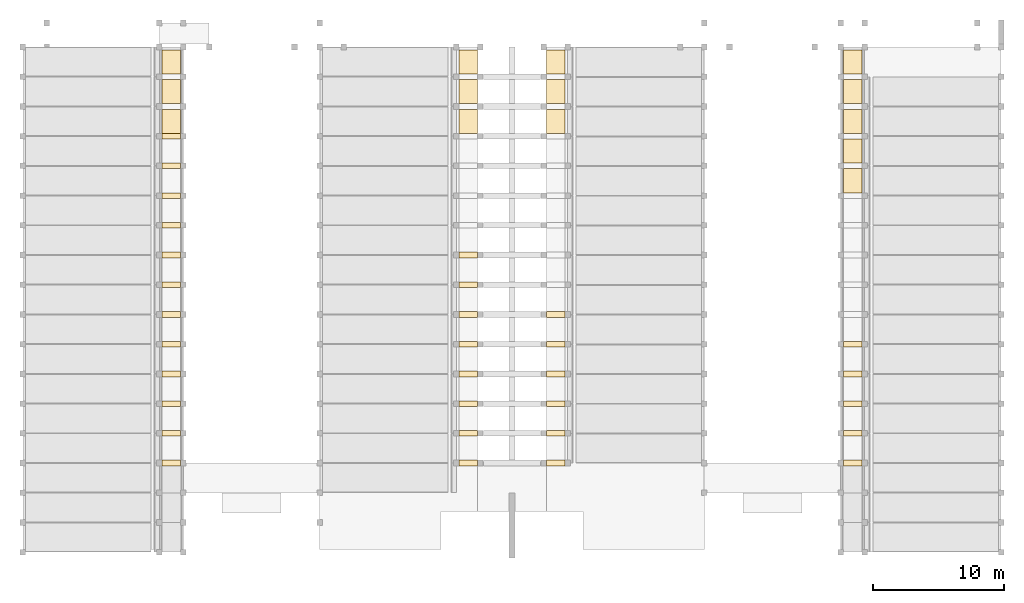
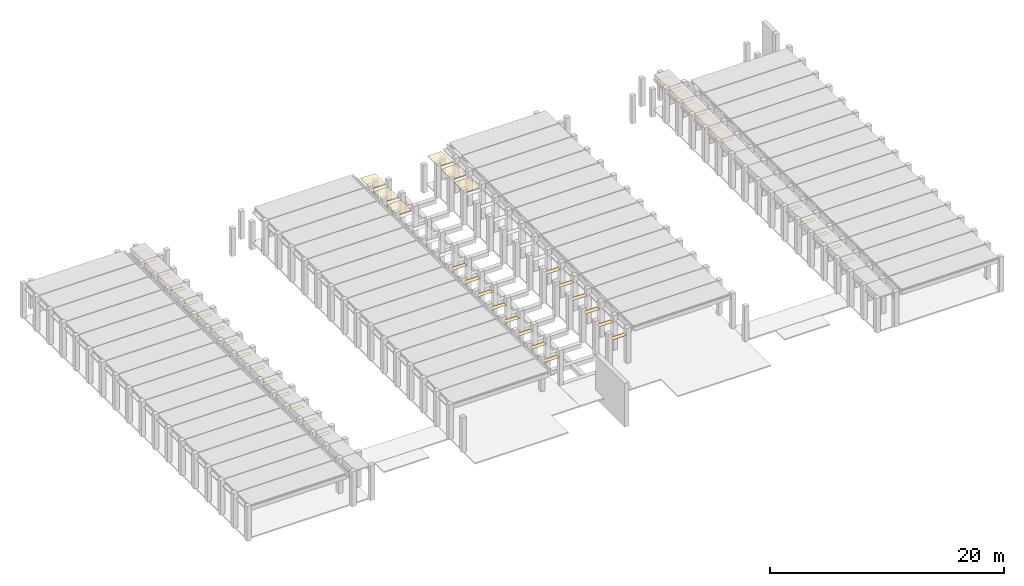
# One storey, part 17 of 18: 45 coverings.
"""IFC2X3 building model written with IfcOpenShell, lengths in millimetres."""

from ifc_helpers import new_model, entity, si_unit, converted_unit, derived_unit, direction, frame, frame_2d, origin, place, context, subcontext, project, spatial, rectangle, extrude, face_set, surface_model, material, layer, layer_set, layer_usage, type_object, element, save


model = new_model("IFC2X3")

# Units and contexts
model_context = context("Model", 3, precision=0.01, world=origin(), true_north=direction((6.12303176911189e-17, 1.0)))
body_context = subcontext(model_context, "Body", "Model", "MODEL_VIEW")
ifc_project = project(units=[si_unit("LENGTHUNIT", "METRE", prefix="MILLI"), si_unit("AREAUNIT", "SQUARE_METRE"), si_unit("VOLUMEUNIT", "CUBIC_METRE"), converted_unit("PLANEANGLEUNIT", "DEGREE", entity("IfcRatioMeasure", 0.0174532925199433), si_unit("PLANEANGLEUNIT", "RADIAN"), dimensions=[0, 0, 0, 0, 0, 0, 0]), si_unit("MASSUNIT", "GRAM", prefix="KILO"), derived_unit("MASSDENSITYUNIT", [(si_unit("MASSUNIT", "GRAM", prefix="KILO"), 1), (si_unit("LENGTHUNIT", "METRE"), -3)]), derived_unit("MOMENTOFINERTIAUNIT", [(si_unit("LENGTHUNIT", "METRE"), 4)]), si_unit("TIMEUNIT", "SECOND"), si_unit("FREQUENCYUNIT", "HERTZ"), si_unit("THERMODYNAMICTEMPERATUREUNIT", "DEGREE_CELSIUS"), derived_unit("THERMALTRANSMITTANCEUNIT", [(si_unit("MASSUNIT", "GRAM", prefix="KILO"), 1), (si_unit("THERMODYNAMICTEMPERATUREUNIT", "KELVIN"), -1), (si_unit("TIMEUNIT", "SECOND"), -3)]), derived_unit("VOLUMETRICFLOWRATEUNIT", [(si_unit("LENGTHUNIT", "METRE"), 3), (si_unit("TIMEUNIT", "SECOND"), -1)]), si_unit("ELECTRICCURRENTUNIT", "AMPERE"), si_unit("ELECTRICVOLTAGEUNIT", "VOLT"), si_unit("POWERUNIT", "WATT"), si_unit("FORCEUNIT", "NEWTON", prefix="KILO"), si_unit("ILLUMINANCEUNIT", "LUX"), si_unit("LUMINOUSFLUXUNIT", "LUMEN"), si_unit("LUMINOUSINTENSITYUNIT", "CANDELA"), derived_unit("USERDEFINED", [(si_unit("MASSUNIT", "GRAM", prefix="KILO"), -1), (si_unit("LENGTHUNIT", "METRE"), -2), (si_unit("TIMEUNIT", "SECOND"), 3), (si_unit("LUMINOUSFLUXUNIT", "LUMEN"), 1)]), derived_unit("LINEARVELOCITYUNIT", [(si_unit("LENGTHUNIT", "METRE"), 1), (si_unit("TIMEUNIT", "SECOND"), -1)]), si_unit("PRESSUREUNIT", "PASCAL"), derived_unit("USERDEFINED", [(si_unit("LENGTHUNIT", "METRE"), -2), (si_unit("MASSUNIT", "GRAM", prefix="KILO"), 1), (si_unit("TIMEUNIT", "SECOND"), -2)]), derived_unit("LINEARFORCEUNIT", [(si_unit("MASSUNIT", "GRAM", prefix="KILO"), 1), (si_unit("LENGTHUNIT", "METRE"), 1), (si_unit("TIMEUNIT", "SECOND"), -2), (si_unit("LENGTHUNIT", "METRE"), -1)]), derived_unit("PLANARFORCEUNIT", [(si_unit("MASSUNIT", "GRAM", prefix="KILO"), 1), (si_unit("LENGTHUNIT", "METRE"), 1), (si_unit("TIMEUNIT", "SECOND"), -2), (si_unit("LENGTHUNIT", "METRE"), -2)])], contexts=[model_context])

# Site, building, storey
site_placement = place(None, frame((10627.5135316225, 21939.0796949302, 0.0)))
site = spatial("IfcSite", under=ifc_project, at=site_placement, Name="Default", CompositionType="ELEMENT")
building_placement = place(site_placement, origin())
building = spatial("IfcBuilding", under=site, at=building_placement, CompositionType="ELEMENT")
storey_placement = place(building_placement, frame((0.0, 0.0, 3660.0)))
storey = spatial("IfcBuildingStorey", under=building, at=storey_placement, Name="R+1", CompositionType="ELEMENT", Elevation=3660.0)

# Coverings
ifc_material_1 = material(Name="Metal Stud Layer")
ifc_layer_1 = layer(ifc_material_1, 45.0)
ifc_material_2 = material(Name="PVC, Flexible")
ifc_layer_2 = layer(ifc_material_2, 12.0)
ifc_layer_set = layer_set([ifc_layer_1, ifc_layer_2], Name="Compound Ceiling:Plain")
ifc_layer_usage_1 = layer_usage(ifc_layer_set, "AXIS3", "POSITIVE", 0.0)
covering_type_1 = type_object("IfcCoveringType", Name="Compound Ceiling:Plain", PredefinedType="CEILING")
covering_1_placement = place(storey_placement, origin())
element("IfcCovering", 1, at=covering_1_placement, inside=storey, type_object=covering_type_1, material=ifc_layer_usage_1, Name="Compound Ceiling:Plain", ObjectType="Compound Ceiling:Plain", PredefinedType="CEILING", context=body_context, shape_type="SweptSolid", body=[
    extrude(rectangle(XDim=1828.30330426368, YDim=1400.00000000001, at=frame_2d((-1.08002495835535e-12, 0.0), x_axis=(1.0, 0.0))), frame((23257.4864683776, 15351.7686529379, 2959.0), z_axis=(0.0, 0.0, 1.0), x_axis=(0.0, -1.0, 0.0)), (0.0, 0.0, 1.0), 57.0),
])
ifc_layer_usage_2 = layer_usage(ifc_layer_set, "AXIS3", "POSITIVE", 0.0)
covering_type_2 = type_object("IfcCoveringType", Name="Compound Ceiling:Plain", PredefinedType="CEILING")
covering_2_placement = place(storey_placement, origin())
element("IfcCovering", 2, at=covering_2_placement, inside=storey, type_object=covering_type_2, material=ifc_layer_usage_2, Name="Compound Ceiling:Plain", ObjectType="Compound Ceiling:Plain", PredefinedType="CEILING", context=body_context, shape_type="SweptSolid", body=[
    extrude(rectangle(XDim=1828.30330426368, YDim=1400.00000000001, at=frame_2d((-1.08002495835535e-12, 0.0), x_axis=(1.0, 0.0))), frame((23257.4864683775, 13091.7686529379, 2959.0), z_axis=(0.0, 0.0, 1.0), x_axis=(0.0, -1.0, 0.0)), (0.0, 0.0, 1.0), 57.0),
])
ifc_layer_usage_3 = layer_usage(ifc_layer_set, "AXIS3", "POSITIVE", 0.0)
covering_type_3 = type_object("IfcCoveringType", Name="Compound Ceiling:Plain", PredefinedType="CEILING")
covering_3_placement = place(storey_placement, origin())
element("IfcCovering", 3, at=covering_3_placement, inside=storey, type_object=covering_type_3, material=ifc_layer_usage_3, Name="Compound Ceiling:Plain", ObjectType="Compound Ceiling:Plain", PredefinedType="CEILING", context=body_context, shape_type="SweptSolid", body=[
    extrude(rectangle(XDim=1828.30330426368, YDim=1400.00000000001, at=frame_2d((-1.08002495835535e-12, 0.0), x_axis=(1.0, 0.0))), frame((23257.4864683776, 10831.7686529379, 2959.0), z_axis=(0.0, 0.0, 1.0), x_axis=(0.0, -1.0, 0.0)), (0.0, 0.0, 1.0), 57.0),
])
ifc_layer_usage_4 = layer_usage(ifc_layer_set, "AXIS3", "POSITIVE", 0.0)
covering_type_4 = type_object("IfcCoveringType", Name="Compound Ceiling:Plain", PredefinedType="CEILING")
covering_4_placement = place(storey_placement, origin())
element("IfcCovering", 4, at=covering_4_placement, inside=storey, type_object=covering_type_4, material=ifc_layer_usage_4, Name="Compound Ceiling:Plain", ObjectType="Compound Ceiling:Plain", PredefinedType="CEILING", context=body_context, shape_type="SweptSolid", body=[
    extrude(rectangle(XDim=1828.30330426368, YDim=1400.00000000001, at=frame_2d((-1.08002495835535e-12, 0.0), x_axis=(1.0, 0.0))), frame((667.486468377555, 15351.768652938, 2959.0), z_axis=(0.0, 0.0, 1.0), x_axis=(0.0, -1.0, 0.0)), (0.0, 0.0, 1.0), 57.0),
])
ifc_layer_usage_5 = layer_usage(ifc_layer_set, "AXIS3", "POSITIVE", 0.0)
covering_type_5 = type_object("IfcCoveringType", Name="Compound Ceiling:Plain", PredefinedType="CEILING")
covering_5_placement = place(storey_placement, origin())
element("IfcCovering", 5, at=covering_5_placement, inside=storey, type_object=covering_type_5, material=ifc_layer_usage_5, Name="Compound Ceiling:Plain", ObjectType="Compound Ceiling:Plain", PredefinedType="CEILING", context=body_context, shape_type="SweptSolid", body=[
    extrude(rectangle(XDim=1828.30330426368, YDim=1400.00000000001, at=frame_2d((-1.08002495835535e-12, 0.0), x_axis=(1.0, 0.0))), frame((667.486468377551, 13091.768652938, 2959.0), z_axis=(0.0, 0.0, 1.0), x_axis=(0.0, -1.0, 0.0)), (0.0, 0.0, 1.0), 57.0),
])
ifc_layer_usage_6 = layer_usage(ifc_layer_set, "AXIS3", "POSITIVE", 0.0)
covering_type_6 = type_object("IfcCoveringType", Name="Compound Ceiling:Plain", PredefinedType="CEILING")
covering_6_placement = place(storey_placement, origin())
element("IfcCovering", 6, at=covering_6_placement, inside=storey, type_object=covering_type_6, material=ifc_layer_usage_6, Name="Compound Ceiling:Plain", ObjectType="Compound Ceiling:Plain", PredefinedType="CEILING", context=body_context, shape_type="SweptSolid", body=[
    extrude(rectangle(XDim=1828.30330426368, YDim=1400.00000000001, at=frame_2d((-1.08002495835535e-12, 0.0), x_axis=(1.0, 0.0))), frame((667.486468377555, 10831.768652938, 2959.0), z_axis=(0.0, 0.0, 1.0), x_axis=(0.0, -1.0, 0.0)), (0.0, 0.0, 1.0), 57.0),
])
ifc_layer_usage_7 = layer_usage(ifc_layer_set, "AXIS3", "POSITIVE", 0.0)
covering_type_7 = type_object("IfcCoveringType", Name="Compound Ceiling:Plain", PredefinedType="CEILING")
covering_7_placement = place(storey_placement, origin())
element("IfcCovering", 7, at=covering_7_placement, inside=storey, type_object=covering_type_7, material=ifc_layer_usage_7, Name="Compound Ceiling:Plain", ObjectType="Compound Ceiling:Plain", PredefinedType="CEILING", context=body_context, shape_type="SweptSolid", body=[
    extrude(rectangle(XDim=1400.00000000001, YDim=1828.30330426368, at=frame_2d((0.0, -1.08002495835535e-12), x_axis=(1.0, 0.0))), frame((29897.4864683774, 15351.7686529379, 2959.0), z_axis=(0.0, 0.0, 1.0), x_axis=(-1.0, 0.0, 0.0)), (0.0, 0.0, 1.0), 57.0),
])
ifc_layer_usage_8 = layer_usage(ifc_layer_set, "AXIS3", "POSITIVE", 0.0)
covering_type_8 = type_object("IfcCoveringType", Name="Compound Ceiling:Plain", PredefinedType="CEILING")
covering_8_placement = place(storey_placement, origin())
element("IfcCovering", 8, at=covering_8_placement, inside=storey, type_object=covering_type_8, material=ifc_layer_usage_8, Name="Compound Ceiling:Plain", ObjectType="Compound Ceiling:Plain", PredefinedType="CEILING", context=body_context, shape_type="SweptSolid", body=[
    extrude(rectangle(XDim=1400.00000000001, YDim=1828.30330426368, at=frame_2d((0.0, 1.08002495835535e-12), x_axis=(1.0, 0.0))), frame((29897.4864683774, 13091.7686529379, 2959.0), z_axis=(0.0, 0.0, 1.0), x_axis=(-1.0, 0.0, 0.0)), (0.0, 0.0, 1.0), 57.0),
])
ifc_layer_usage_9 = layer_usage(ifc_layer_set, "AXIS3", "POSITIVE", 0.0)
covering_type_9 = type_object("IfcCoveringType", Name="Compound Ceiling:Plain", PredefinedType="CEILING")
covering_9_placement = place(storey_placement, origin())
element("IfcCovering", 9, at=covering_9_placement, inside=storey, type_object=covering_type_9, material=ifc_layer_usage_9, Name="Compound Ceiling:Plain", ObjectType="Compound Ceiling:Plain", PredefinedType="CEILING", context=body_context, shape_type="SweptSolid", body=[
    extrude(rectangle(XDim=1400.00000000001, YDim=1828.30330426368, at=frame_2d((0.0, -1.08002495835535e-12), x_axis=(1.0, 0.0))), frame((29897.4864683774, 10831.7686529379, 2959.0), z_axis=(0.0, 0.0, 1.0), x_axis=(-1.0, 0.0, 0.0)), (0.0, 0.0, 1.0), 57.0),
])
ifc_layer_usage_10 = layer_usage(ifc_layer_set, "AXIS3", "POSITIVE", 0.0)
covering_type_10 = type_object("IfcCoveringType", Name="Compound Ceiling:Plain", PredefinedType="CEILING")
covering_10_placement = place(storey_placement, origin())
element("IfcCovering", 10, at=covering_10_placement, inside=storey, type_object=covering_type_10, material=ifc_layer_usage_10, Name="Compound Ceiling:Plain", ObjectType="Compound Ceiling:Plain", PredefinedType="CEILING", context=body_context, shape_type="SweptSolid", body=[
    extrude(rectangle(XDim=1400.00000000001, YDim=1828.30330426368, at=frame_2d((0.0, 1.08002495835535e-12), x_axis=(1.0, 0.0))), frame((52487.4864683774, 15351.768652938, 2959.0), z_axis=(0.0, 0.0, 1.0), x_axis=(-1.0, 0.0, 0.0)), (0.0, 0.0, 1.0), 57.0),
])
ifc_layer_usage_11 = layer_usage(ifc_layer_set, "AXIS3", "POSITIVE", 0.0)
covering_type_11 = type_object("IfcCoveringType", Name="Compound Ceiling:Plain", PredefinedType="CEILING")
covering_11_placement = place(storey_placement, origin())
element("IfcCovering", 11, at=covering_11_placement, inside=storey, type_object=covering_type_11, material=ifc_layer_usage_11, Name="Compound Ceiling:Plain", ObjectType="Compound Ceiling:Plain", PredefinedType="CEILING", context=body_context, shape_type="SweptSolid", body=[
    extrude(rectangle(XDim=1400.00000000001, YDim=1828.30330426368, at=frame_2d((0.0, -1.08002495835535e-12), x_axis=(1.0, 0.0))), frame((52487.4864683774, 13091.768652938, 2959.0), z_axis=(0.0, 0.0, 1.0), x_axis=(-1.0, 0.0, 0.0)), (0.0, 0.0, 1.0), 57.0),
])
ifc_layer_usage_12 = layer_usage(ifc_layer_set, "AXIS3", "POSITIVE", 0.0)
covering_type_12 = type_object("IfcCoveringType", Name="Compound Ceiling:Plain", PredefinedType="CEILING")
covering_12_placement = place(storey_placement, origin())
element("IfcCovering", 12, at=covering_12_placement, inside=storey, type_object=covering_type_12, material=ifc_layer_usage_12, Name="Compound Ceiling:Plain", ObjectType="Compound Ceiling:Plain", PredefinedType="CEILING", context=body_context, shape_type="SweptSolid", body=[
    extrude(rectangle(XDim=1400.00000000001, YDim=1828.30330426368, at=frame_2d((0.0, 1.08002495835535e-12), x_axis=(1.0, 0.0))), frame((52487.4864683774, 10831.768652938, 2959.0), z_axis=(0.0, 0.0, 1.0), x_axis=(-1.0, 0.0, 0.0)), (0.0, 0.0, 1.0), 57.0),
])
ifc_layer_usage_13 = layer_usage(ifc_layer_set, "AXIS3", "POSITIVE", 0.0)
covering_type_13 = type_object("IfcCoveringType", Name="Compound Ceiling:Plain", PredefinedType="CEILING")
covering_13_placement = place(storey_placement, origin())
element("IfcCovering", 13, at=covering_13_placement, inside=storey, type_object=covering_type_13, material=ifc_layer_usage_13, Name="Compound Ceiling:Plain", ObjectType="Compound Ceiling:Plain", PredefinedType="CEILING", context=body_context, shape_type="SweptSolid", body=[
    extrude(rectangle(XDim=1400.00000000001, YDim=1828.30330426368, at=frame_2d((0.0, -1.08002495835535e-12), x_axis=(1.0, 0.0))), frame((52487.4864683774, 8571.76865293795, 2959.0), z_axis=(0.0, 0.0, 1.0), x_axis=(-1.0, 0.0, 0.0)), (0.0, 0.0, 1.0), 57.0),
])
ifc_layer_usage_14 = layer_usage(ifc_layer_set, "AXIS3", "POSITIVE", 0.0)
covering_type_14 = type_object("IfcCoveringType", Name="Compound Ceiling:Plain", PredefinedType="CEILING")
covering_14_placement = place(storey_placement, origin())
element("IfcCovering", 14, at=covering_14_placement, inside=storey, type_object=covering_type_14, material=ifc_layer_usage_14, Name="Compound Ceiling:Plain", ObjectType="Compound Ceiling:Plain", PredefinedType="CEILING", context=body_context, shape_type="SweptSolid", body=[
    extrude(rectangle(XDim=1400.00000000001, YDim=1828.30330426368, at=frame_2d((0.0, 1.08002495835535e-12), x_axis=(1.0, 0.0))), frame((52487.4864683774, 6311.76865293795, 2959.0), z_axis=(0.0, 0.0, 1.0), x_axis=(-1.0, 0.0, 0.0)), (0.0, 0.0, 1.0), 57.0),
])
covering_type_15 = type_object("IfcCoveringType", Name="Basic Ceiling:Generic", PredefinedType="CEILING")
covering_15_placement = place(storey_placement, frame((22557.4864683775, 445.920305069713, 2959.0)))
element("IfcCovering", 15, at=covering_15_placement, inside=storey, type_object=covering_type_15, Name="Basic Ceiling:Generic", ObjectType="Basic Ceiling:Generic", PredefinedType="CEILING", context=body_context, shape_type="SurfaceModel", body=[
    surface_model("IfcFaceBasedSurfaceModel", [(0.0, 430.0, 0.0), (0.0, 0.0, 0.0), (1400.0, 0.0, 0.0), (1400.0, 430.0, 0.0)], [face_set([[[0, 1, 2, 3]]])]),
])
covering_type_16 = type_object("IfcCoveringType", Name="Basic Ceiling:Generic", PredefinedType="CEILING")
covering_16_placement = place(storey_placement, frame((22557.4864683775, -1814.07969493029, 2959.0)))
element("IfcCovering", 16, at=covering_16_placement, inside=storey, type_object=covering_type_16, Name="Basic Ceiling:Generic", ObjectType="Basic Ceiling:Generic", PredefinedType="CEILING", context=body_context, shape_type="SurfaceModel", body=[
    surface_model("IfcFaceBasedSurfaceModel", [(0.0, 430.0, 0.0), (0.0, 0.0, 0.0), (1400.0, 0.0, 0.0), (1400.0, 430.0, 0.0)], [face_set([[[0, 1, 2, 3]]])]),
])
covering_type_17 = type_object("IfcCoveringType", Name="Basic Ceiling:Generic", PredefinedType="CEILING")
covering_17_placement = place(storey_placement, frame((22557.4864683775, -4074.07969493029, 2959.0)))
element("IfcCovering", 17, at=covering_17_placement, inside=storey, type_object=covering_type_17, Name="Basic Ceiling:Generic", ObjectType="Basic Ceiling:Generic", PredefinedType="CEILING", context=body_context, shape_type="SurfaceModel", body=[
    surface_model("IfcFaceBasedSurfaceModel", [(0.0, 430.0, 0.0), (0.0, 0.0, 0.0), (1400.0, 0.0, 0.0), (1400.0, 430.0, 0.0)], [face_set([[[0, 1, 2, 3]]])]),
])
covering_type_18 = type_object("IfcCoveringType", Name="Basic Ceiling:Generic", PredefinedType="CEILING")
covering_18_placement = place(storey_placement, frame((22557.4864683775, -6334.07969493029, 2959.0)))
element("IfcCovering", 18, at=covering_18_placement, inside=storey, type_object=covering_type_18, Name="Basic Ceiling:Generic", ObjectType="Basic Ceiling:Generic", PredefinedType="CEILING", context=body_context, shape_type="SurfaceModel", body=[
    surface_model("IfcFaceBasedSurfaceModel", [(0.0, 430.0, 0.0), (0.0, 0.0, 0.0), (1400.0, 0.0, 0.0), (1400.0, 430.0, 0.0)], [face_set([[[0, 1, 2, 3]]])]),
])
covering_type_19 = type_object("IfcCoveringType", Name="Basic Ceiling:Generic", PredefinedType="CEILING")
covering_19_placement = place(storey_placement, frame((22557.4864683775, -8594.07969493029, 2959.0)))
element("IfcCovering", 19, at=covering_19_placement, inside=storey, type_object=covering_type_19, Name="Basic Ceiling:Generic", ObjectType="Basic Ceiling:Generic", PredefinedType="CEILING", context=body_context, shape_type="SurfaceModel", body=[
    surface_model("IfcFaceBasedSurfaceModel", [(0.0, 430.0, 0.0), (0.0, 0.0, 0.0), (1400.0, 0.0, 0.0), (1400.0, 430.0, 0.0)], [face_set([[[0, 1, 2, 3]]])]),
])
covering_type_20 = type_object("IfcCoveringType", Name="Basic Ceiling:Generic", PredefinedType="CEILING")
covering_20_placement = place(storey_placement, frame((22557.4864683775, -10854.0796949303, 2959.0)))
element("IfcCovering", 20, at=covering_20_placement, inside=storey, type_object=covering_type_20, Name="Basic Ceiling:Generic", ObjectType="Basic Ceiling:Generic", PredefinedType="CEILING", context=body_context, shape_type="SurfaceModel", body=[
    surface_model("IfcFaceBasedSurfaceModel", [(0.0, 430.0, 0.0), (0.0, 0.0, 0.0), (1400.0, 0.0, 0.0), (1400.0, 430.0, 0.0)], [face_set([[[0, 1, 2, 3]]])]),
])
covering_type_21 = type_object("IfcCoveringType", Name="Basic Ceiling:Generic", PredefinedType="CEILING")
covering_21_placement = place(storey_placement, frame((22557.4864683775, -13114.0796949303, 2959.0)))
element("IfcCovering", 21, at=covering_21_placement, inside=storey, type_object=covering_type_21, Name="Basic Ceiling:Generic", ObjectType="Basic Ceiling:Generic", PredefinedType="CEILING", context=body_context, shape_type="SurfaceModel", body=[
    surface_model("IfcFaceBasedSurfaceModel", [(0.0, 430.0, 0.0), (0.0, 0.0, 0.0), (1400.0, 0.0, 0.0), (1400.0, 430.0, 0.0)], [face_set([[[0, 1, 2, 3]]])]),
])
covering_type_22 = type_object("IfcCoveringType", Name="Basic Ceiling:Generic", PredefinedType="CEILING")
covering_22_placement = place(storey_placement, frame((22557.4864683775, -15374.0796949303, 2959.0)))
element("IfcCovering", 22, at=covering_22_placement, inside=storey, type_object=covering_type_22, Name="Basic Ceiling:Generic", ObjectType="Basic Ceiling:Generic", PredefinedType="CEILING", context=body_context, shape_type="SurfaceModel", body=[
    surface_model("IfcFaceBasedSurfaceModel", [(0.0, 430.0, 0.0), (0.0, 0.0, 0.0), (1400.0, 0.0, 0.0), (1400.0, 430.0, 0.0)], [face_set([[[0, 1, 2, 3]]])]),
])
covering_type_23 = type_object("IfcCoveringType", Name="Basic Ceiling:Generic", PredefinedType="CEILING")
covering_23_placement = place(storey_placement, frame((-32.5135316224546, 9485.92030506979, 2959.0)))
element("IfcCovering", 23, at=covering_23_placement, inside=storey, type_object=covering_type_23, Name="Basic Ceiling:Generic", ObjectType="Basic Ceiling:Generic", PredefinedType="CEILING", context=body_context, shape_type="SurfaceModel", body=[
    surface_model("IfcFaceBasedSurfaceModel", [(0.0, 430.0, 0.0), (0.0, 0.0, 0.0), (1400.0, 0.0, 0.0), (1400.0, 430.0, 0.0)], [face_set([[[0, 1, 2, 3]]])]),
])
covering_type_24 = type_object("IfcCoveringType", Name="Basic Ceiling:Generic", PredefinedType="CEILING")
covering_24_placement = place(storey_placement, frame((-32.5135316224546, 7225.92030506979, 2959.0)))
element("IfcCovering", 24, at=covering_24_placement, inside=storey, type_object=covering_type_24, Name="Basic Ceiling:Generic", ObjectType="Basic Ceiling:Generic", PredefinedType="CEILING", context=body_context, shape_type="SurfaceModel", body=[
    surface_model("IfcFaceBasedSurfaceModel", [(0.0, 430.0, 0.0), (0.0, 0.0, 0.0), (1400.0, 0.0, 0.0), (1400.0, 430.0, 0.0)], [face_set([[[0, 1, 2, 3]]])]),
])
covering_type_25 = type_object("IfcCoveringType", Name="Basic Ceiling:Generic", PredefinedType="CEILING")
covering_25_placement = place(storey_placement, frame((-32.5135316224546, 4965.92030506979, 2959.0)))
element("IfcCovering", 25, at=covering_25_placement, inside=storey, type_object=covering_type_25, Name="Basic Ceiling:Generic", ObjectType="Basic Ceiling:Generic", PredefinedType="CEILING", context=body_context, shape_type="SurfaceModel", body=[
    surface_model("IfcFaceBasedSurfaceModel", [(0.0, 430.0, 0.0), (0.0, 0.0, 0.0), (1400.0, 0.0, 0.0), (1400.0, 430.0, 0.0)], [face_set([[[0, 1, 2, 3]]])]),
])
covering_type_26 = type_object("IfcCoveringType", Name="Basic Ceiling:Generic", PredefinedType="CEILING")
covering_26_placement = place(storey_placement, frame((-32.5135316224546, 2705.92030506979, 2959.0)))
element("IfcCovering", 26, at=covering_26_placement, inside=storey, type_object=covering_type_26, Name="Basic Ceiling:Generic", ObjectType="Basic Ceiling:Generic", PredefinedType="CEILING", context=body_context, shape_type="SurfaceModel", body=[
    surface_model("IfcFaceBasedSurfaceModel", [(0.0, 430.0, 0.0), (0.0, 0.0, 0.0), (1400.0, 0.0, 0.0), (1400.0, 430.0, 0.0)], [face_set([[[0, 1, 2, 3]]])]),
])
covering_type_27 = type_object("IfcCoveringType", Name="Basic Ceiling:Generic", PredefinedType="CEILING")
covering_27_placement = place(storey_placement, frame((-32.5135316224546, 445.920305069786, 2959.0)))
element("IfcCovering", 27, at=covering_27_placement, inside=storey, type_object=covering_type_27, Name="Basic Ceiling:Generic", ObjectType="Basic Ceiling:Generic", PredefinedType="CEILING", context=body_context, shape_type="SurfaceModel", body=[
    surface_model("IfcFaceBasedSurfaceModel", [(0.0, 430.0, 0.0), (0.0, 0.0, 0.0), (1400.0, 0.0, 0.0), (1400.0, 430.0, 0.0)], [face_set([[[0, 1, 2, 3]]])]),
])
covering_type_28 = type_object("IfcCoveringType", Name="Basic Ceiling:Generic", PredefinedType="CEILING")
covering_28_placement = place(storey_placement, frame((-32.5135316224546, -1814.07969493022, 2959.0)))
element("IfcCovering", 28, at=covering_28_placement, inside=storey, type_object=covering_type_28, Name="Basic Ceiling:Generic", ObjectType="Basic Ceiling:Generic", PredefinedType="CEILING", context=body_context, shape_type="SurfaceModel", body=[
    surface_model("IfcFaceBasedSurfaceModel", [(0.0, 430.0, 0.0), (0.0, 0.0, 0.0), (1400.0, 0.0, 0.0), (1400.0, 430.0, 0.0)], [face_set([[[0, 1, 2, 3]]])]),
])
covering_type_29 = type_object("IfcCoveringType", Name="Basic Ceiling:Generic", PredefinedType="CEILING")
covering_29_placement = place(storey_placement, frame((-32.5135316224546, -4074.07969493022, 2959.0)))
element("IfcCovering", 29, at=covering_29_placement, inside=storey, type_object=covering_type_29, Name="Basic Ceiling:Generic", ObjectType="Basic Ceiling:Generic", PredefinedType="CEILING", context=body_context, shape_type="SurfaceModel", body=[
    surface_model("IfcFaceBasedSurfaceModel", [(0.0, 430.0, 0.0), (0.0, 0.0, 0.0), (1400.0, 0.0, 0.0), (1400.0, 430.0, 0.0)], [face_set([[[0, 1, 2, 3]]])]),
])
covering_type_30 = type_object("IfcCoveringType", Name="Basic Ceiling:Generic", PredefinedType="CEILING")
covering_30_placement = place(storey_placement, frame((-32.5135316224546, -6334.07969493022, 2959.0)))
element("IfcCovering", 30, at=covering_30_placement, inside=storey, type_object=covering_type_30, Name="Basic Ceiling:Generic", ObjectType="Basic Ceiling:Generic", PredefinedType="CEILING", context=body_context, shape_type="SurfaceModel", body=[
    surface_model("IfcFaceBasedSurfaceModel", [(0.0, 430.0, 0.0), (0.0, 0.0, 0.0), (1400.0, 0.0, 0.0), (1400.0, 430.0, 0.0)], [face_set([[[0, 1, 2, 3]]])]),
])
covering_type_31 = type_object("IfcCoveringType", Name="Basic Ceiling:Generic", PredefinedType="CEILING")
covering_31_placement = place(storey_placement, frame((-32.5135316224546, -8594.07969493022, 2959.0)))
element("IfcCovering", 31, at=covering_31_placement, inside=storey, type_object=covering_type_31, Name="Basic Ceiling:Generic", ObjectType="Basic Ceiling:Generic", PredefinedType="CEILING", context=body_context, shape_type="SurfaceModel", body=[
    surface_model("IfcFaceBasedSurfaceModel", [(0.0, 430.0, 0.0), (0.0, 0.0, 0.0), (1400.0, 0.0, 0.0), (1400.0, 430.0, 0.0)], [face_set([[[0, 1, 2, 3]]])]),
])
covering_type_32 = type_object("IfcCoveringType", Name="Basic Ceiling:Generic", PredefinedType="CEILING")
covering_32_placement = place(storey_placement, frame((-32.5135316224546, -10854.0796949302, 2959.0)))
element("IfcCovering", 32, at=covering_32_placement, inside=storey, type_object=covering_type_32, Name="Basic Ceiling:Generic", ObjectType="Basic Ceiling:Generic", PredefinedType="CEILING", context=body_context, shape_type="SurfaceModel", body=[
    surface_model("IfcFaceBasedSurfaceModel", [(0.0, 430.0, 0.0), (0.0, 0.0, 0.0), (1400.0, 0.0, 0.0), (1400.0, 430.0, 0.0)], [face_set([[[0, 1, 2, 3]]])]),
])
covering_type_33 = type_object("IfcCoveringType", Name="Basic Ceiling:Generic", PredefinedType="CEILING")
covering_33_placement = place(storey_placement, frame((-32.5135316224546, -13114.0796949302, 2959.0)))
element("IfcCovering", 33, at=covering_33_placement, inside=storey, type_object=covering_type_33, Name="Basic Ceiling:Generic", ObjectType="Basic Ceiling:Generic", PredefinedType="CEILING", context=body_context, shape_type="SurfaceModel", body=[
    surface_model("IfcFaceBasedSurfaceModel", [(0.0, 430.0, 0.0), (0.0, 0.0, 0.0), (1400.0, 0.0, 0.0), (1400.0, 430.0, 0.0)], [face_set([[[0, 1, 2, 3]]])]),
])
covering_type_34 = type_object("IfcCoveringType", Name="Basic Ceiling:Generic", PredefinedType="CEILING")
covering_34_placement = place(storey_placement, frame((-32.5135316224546, -15374.0796949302, 2959.0)))
element("IfcCovering", 34, at=covering_34_placement, inside=storey, type_object=covering_type_34, Name="Basic Ceiling:Generic", ObjectType="Basic Ceiling:Generic", PredefinedType="CEILING", context=body_context, shape_type="SurfaceModel", body=[
    surface_model("IfcFaceBasedSurfaceModel", [(0.0, 430.0, 0.0), (0.0, 0.0, 0.0), (1400.0, 0.0, 0.0), (1400.0, 430.0, 0.0)], [face_set([[[0, 1, 2, 3]]])]),
])
covering_type_35 = type_object("IfcCoveringType", Name="Basic Ceiling:Generic", PredefinedType="CEILING")
covering_35_placement = place(storey_placement, frame((29197.4864683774, -4074.07969493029, 2959.0)))
element("IfcCovering", 35, at=covering_35_placement, inside=storey, type_object=covering_type_35, Name="Basic Ceiling:Generic", ObjectType="Basic Ceiling:Generic", PredefinedType="CEILING", context=body_context, shape_type="SurfaceModel", body=[
    surface_model("IfcFaceBasedSurfaceModel", [(1400.0, 430.0, 0.0), (0.0, 430.0, 0.0), (0.0, 0.0, 0.0), (1400.0, 0.0, 0.0)], [face_set([[[0, 1, 2, 3]]])]),
])
covering_type_36 = type_object("IfcCoveringType", Name="Basic Ceiling:Generic", PredefinedType="CEILING")
covering_36_placement = place(storey_placement, frame((29197.4864683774, -6334.07969493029, 2959.0)))
element("IfcCovering", 36, at=covering_36_placement, inside=storey, type_object=covering_type_36, Name="Basic Ceiling:Generic", ObjectType="Basic Ceiling:Generic", PredefinedType="CEILING", context=body_context, shape_type="SurfaceModel", body=[
    surface_model("IfcFaceBasedSurfaceModel", [(1400.0, 430.0, 0.0), (0.0, 430.0, 0.0), (0.0, 0.0, 0.0), (1400.0, 0.0, 0.0)], [face_set([[[0, 1, 2, 3]]])]),
])
covering_type_37 = type_object("IfcCoveringType", Name="Basic Ceiling:Generic", PredefinedType="CEILING")
covering_37_placement = place(storey_placement, frame((29197.4864683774, -8594.07969493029, 2959.0)))
element("IfcCovering", 37, at=covering_37_placement, inside=storey, type_object=covering_type_37, Name="Basic Ceiling:Generic", ObjectType="Basic Ceiling:Generic", PredefinedType="CEILING", context=body_context, shape_type="SurfaceModel", body=[
    surface_model("IfcFaceBasedSurfaceModel", [(1400.0, 430.0, 0.0), (0.0, 430.0, 0.0), (0.0, 0.0, 0.0), (1400.0, 0.0, 0.0)], [face_set([[[0, 1, 2, 3]]])]),
])
covering_type_38 = type_object("IfcCoveringType", Name="Basic Ceiling:Generic", PredefinedType="CEILING")
covering_38_placement = place(storey_placement, frame((29197.4864683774, -10854.0796949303, 2959.0)))
element("IfcCovering", 38, at=covering_38_placement, inside=storey, type_object=covering_type_38, Name="Basic Ceiling:Generic", ObjectType="Basic Ceiling:Generic", PredefinedType="CEILING", context=body_context, shape_type="SurfaceModel", body=[
    surface_model("IfcFaceBasedSurfaceModel", [(1400.0, 430.0, 0.0), (0.0, 430.0, 0.0), (0.0, 0.0, 0.0), (1400.0, 0.0, 0.0)], [face_set([[[0, 1, 2, 3]]])]),
])
covering_type_39 = type_object("IfcCoveringType", Name="Basic Ceiling:Generic", PredefinedType="CEILING")
covering_39_placement = place(storey_placement, frame((29197.4864683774, -13114.0796949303, 2959.0)))
element("IfcCovering", 39, at=covering_39_placement, inside=storey, type_object=covering_type_39, Name="Basic Ceiling:Generic", ObjectType="Basic Ceiling:Generic", PredefinedType="CEILING", context=body_context, shape_type="SurfaceModel", body=[
    surface_model("IfcFaceBasedSurfaceModel", [(1400.0, 430.0, 0.0), (0.0, 430.0, 0.0), (0.0, 0.0, 0.0), (1400.0, 0.0, 0.0)], [face_set([[[0, 1, 2, 3]]])]),
])
covering_type_40 = type_object("IfcCoveringType", Name="Basic Ceiling:Generic", PredefinedType="CEILING")
covering_40_placement = place(storey_placement, frame((29197.4864683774, -15374.0796949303, 2959.0)))
element("IfcCovering", 40, at=covering_40_placement, inside=storey, type_object=covering_type_40, Name="Basic Ceiling:Generic", ObjectType="Basic Ceiling:Generic", PredefinedType="CEILING", context=body_context, shape_type="SurfaceModel", body=[
    surface_model("IfcFaceBasedSurfaceModel", [(1400.0, 430.0, 0.0), (0.0, 430.0, 0.0), (0.0, 0.0, 0.0), (1400.0, 0.0, 0.0)], [face_set([[[0, 1, 2, 3]]])]),
])
covering_type_41 = type_object("IfcCoveringType", Name="Basic Ceiling:Generic", PredefinedType="CEILING")
covering_41_placement = place(storey_placement, frame((51787.4864683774, -6334.07969493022, 2959.0)))
element("IfcCovering", 41, at=covering_41_placement, inside=storey, type_object=covering_type_41, Name="Basic Ceiling:Generic", ObjectType="Basic Ceiling:Generic", PredefinedType="CEILING", context=body_context, shape_type="SurfaceModel", body=[
    surface_model("IfcFaceBasedSurfaceModel", [(1400.0, 430.0, 0.0), (0.0, 430.0, 0.0), (0.0, 0.0, 0.0), (1400.0, 0.0, 0.0)], [face_set([[[0, 1, 2, 3]]])]),
])
covering_type_42 = type_object("IfcCoveringType", Name="Basic Ceiling:Generic", PredefinedType="CEILING")
covering_42_placement = place(storey_placement, frame((51787.4864683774, -8594.07969493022, 2959.0)))
element("IfcCovering", 42, at=covering_42_placement, inside=storey, type_object=covering_type_42, Name="Basic Ceiling:Generic", ObjectType="Basic Ceiling:Generic", PredefinedType="CEILING", context=body_context, shape_type="SurfaceModel", body=[
    surface_model("IfcFaceBasedSurfaceModel", [(1400.0, 430.0, 0.0), (0.0, 430.0, 0.0), (0.0, 0.0, 0.0), (1400.0, 0.0, 0.0)], [face_set([[[0, 1, 2, 3]]])]),
])
covering_type_43 = type_object("IfcCoveringType", Name="Basic Ceiling:Generic", PredefinedType="CEILING")
covering_43_placement = place(storey_placement, frame((51787.4864683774, -10854.0796949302, 2959.0)))
element("IfcCovering", 43, at=covering_43_placement, inside=storey, type_object=covering_type_43, Name="Basic Ceiling:Generic", ObjectType="Basic Ceiling:Generic", PredefinedType="CEILING", context=body_context, shape_type="SurfaceModel", body=[
    surface_model("IfcFaceBasedSurfaceModel", [(1400.0, 430.0, 0.0), (0.0, 430.0, 0.0), (0.0, 0.0, 0.0), (1400.0, 0.0, 0.0)], [face_set([[[0, 1, 2, 3]]])]),
])
covering_type_44 = type_object("IfcCoveringType", Name="Basic Ceiling:Generic", PredefinedType="CEILING")
covering_44_placement = place(storey_placement, frame((51787.4864683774, -13114.0796949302, 2959.0)))
element("IfcCovering", 44, at=covering_44_placement, inside=storey, type_object=covering_type_44, Name="Basic Ceiling:Generic", ObjectType="Basic Ceiling:Generic", PredefinedType="CEILING", context=body_context, shape_type="SurfaceModel", body=[
    surface_model("IfcFaceBasedSurfaceModel", [(1400.0, 430.0, 0.0), (0.0, 430.0, 0.0), (0.0, 0.0, 0.0), (1400.0, 0.0, 0.0)], [face_set([[[0, 1, 2, 3]]])]),
])
covering_type_45 = type_object("IfcCoveringType", Name="Basic Ceiling:Generic", PredefinedType="CEILING")
covering_45_placement = place(storey_placement, frame((51787.4864683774, -15374.0796949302, 2959.0)))
element("IfcCovering", 45, at=covering_45_placement, inside=storey, type_object=covering_type_45, Name="Basic Ceiling:Generic", ObjectType="Basic Ceiling:Generic", PredefinedType="CEILING", context=body_context, shape_type="SurfaceModel", body=[
    surface_model("IfcFaceBasedSurfaceModel", [(1400.0, 430.0, 0.0), (0.0, 430.0, 0.0), (0.0, 0.0, 0.0), (1400.0, 0.0, 0.0)], [face_set([[[0, 1, 2, 3]]])]),
])

save(model, "model.ifc")
